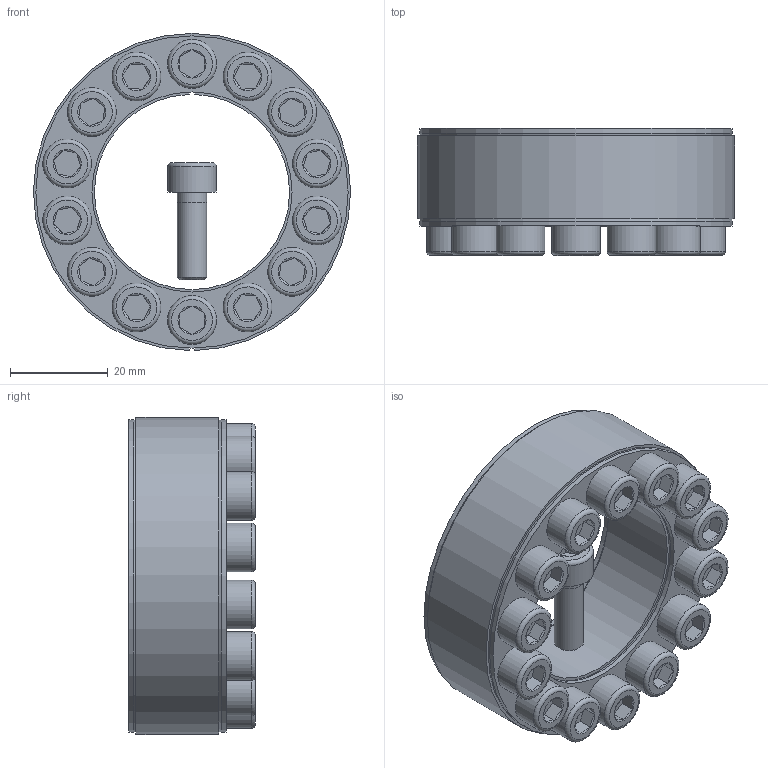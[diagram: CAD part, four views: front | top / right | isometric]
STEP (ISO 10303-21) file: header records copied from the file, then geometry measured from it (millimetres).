
FILE_DESCRIPTION( ( 'Unknown' ), '1' );
FILE_NAME( 'C:/Dokumente und Einstellungen/Sven/Desktop/homepage/cad - homepage/KBS40/KBS 40 - 40 x 65.stp', 'Unknown', ( 'Unknown' ), ( 'Unknown' ), 'XStep 1.0', 'Unknown', ' ' );
FILE_SCHEMA( ( 'automotive_design' ) );
Length unit declared in the file: millimetre
Products named in the file (16): Assem1; KBS 40 40x65; ISO 4762 M6x18; ISO 4762 M6x18-oa0; ISO 4762 M6x18-oa1; ISO 4762 M6x18-oa2; ISO 4762 M6x18-oa3; ISO 4762 M6x18-oa4; ISO 4762 M6x18-oa5; ISO 4762 M6x18-oa6; ISO 4762 M6x18-oa7; ISO 4762 M6x18-oa8; ISO 4762 M6x18-oa9; ISO 4762 M6x18-oa10; ISO 4762 M6x18-oa11; ISO 4762 M6x18-oa12
Bounding box: 65 x 26 x 65 mm (x, y, z)
Volume: 90946.5 mm3; surface area: 51285.7 mm2
Topology: 30 solids, 30 shells, 788 faces, 1456 edges, 840 vertices
Faces by surface type: plane 376, cone 204, cylinder 152, torus 56
Full cylindrical faces by diameter (mm): 5 x28, 6 x84, 10 x28, 41 x4, 64 x4
Entity records: 9689 total; most frequent: CARTESIAN_POINT 2022, DIRECTION 1600, ORIENTED_EDGE 1156, AXIS2_PLACEMENT_3D 696, EDGE_LOOP 600, EDGE_CURVE 578, FACE_OUTER_BOUND 496, ADVANCED_FACE 394
